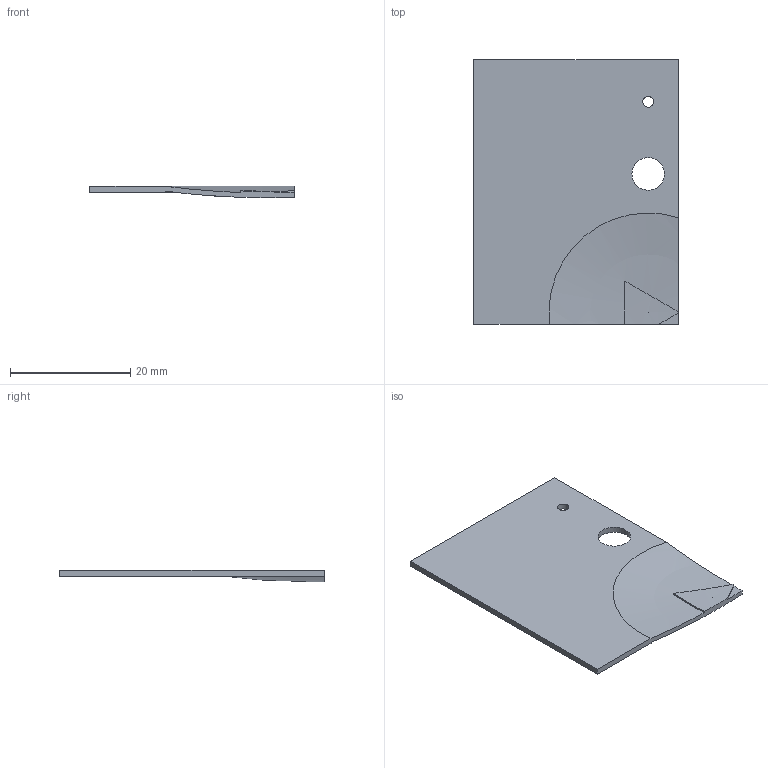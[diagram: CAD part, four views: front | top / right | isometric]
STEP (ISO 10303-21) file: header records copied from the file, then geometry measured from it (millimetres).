
FILE_DESCRIPTION(('Open CASCADE Model'),'2;1');
FILE_NAME('Open CASCADE Shape Model','2026-09-06T11:32:58',('Author'),( 'Open CASCADE'),'Open CASCADE STEP processor 7.7','Open CASCADE 7.7' ,'Unknown');
FILE_SCHEMA(('AUTOMOTIVE_DESIGN { 1 0 10303 214 1 1 1 1 }'));
Length unit declared in the file: millimetre
Products named in the file (1): Open CASCADE STEP translator 7.7 7
Bounding box: 34 x 44 x 1.9 mm (x, y, z)
Volume: 1413.6 mm3; surface area: 3127.7 mm2
Topology: 1 solids, 1 shells, 16 faces, 48 edges, 32 vertices
Faces by surface type: plane 9, sphere 4, cylinder 3
Full cylindrical faces by diameter (mm): 1.8 x1, 5.4 x1
Entity records: 1929 total; most frequent: CARTESIAN_POINT 1064, DIRECTION 144, ORIENTED_EDGE 92, PCURVE 92, DEFINITIONAL_REPRESENTATION 92, B_SPLINE_CURVE_WITH_KNOTS 48, EDGE_CURVE 46, LINE 43
